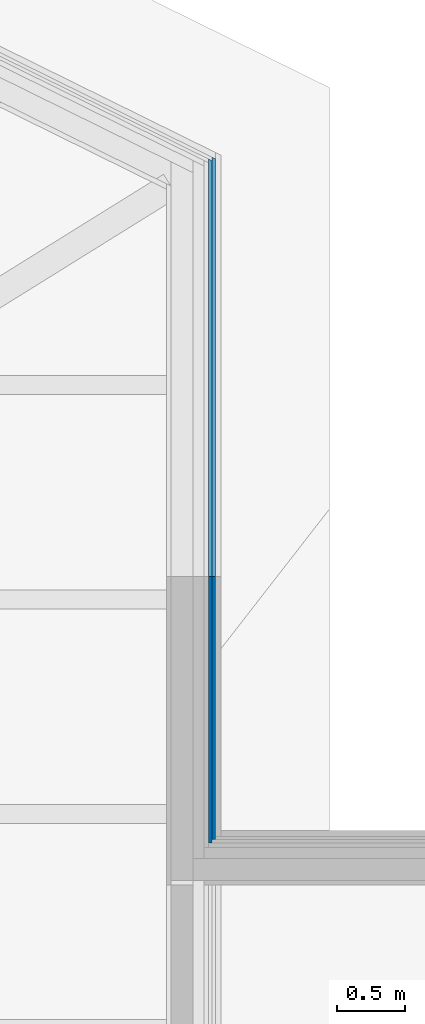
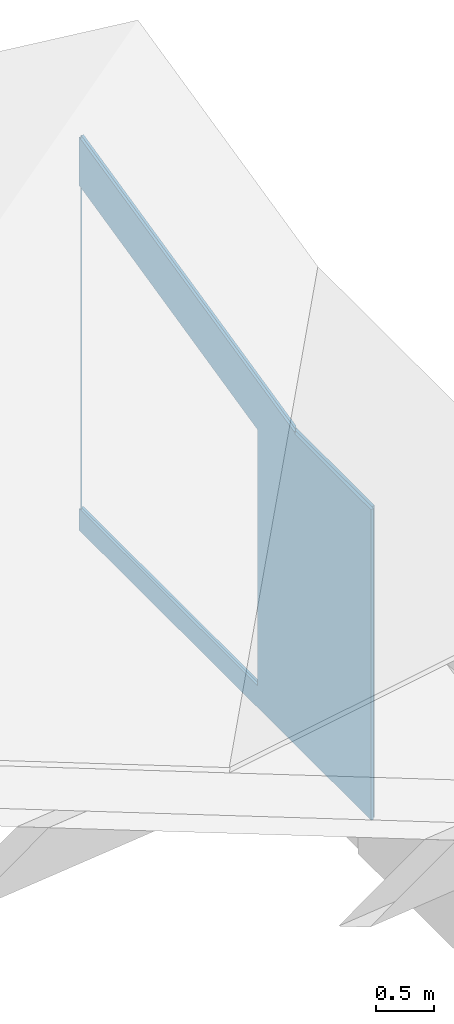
# One storey, part 7 of 14: 2 walls, 4 openings.
"""IFC4 building model written with IfcOpenShell, lengths in metres."""

from ifc_helpers import new_model, entity, si_unit, converted_unit, derived_unit, frame, origin, origin_with_axes, place, context, subcontext, project, spatial, polyline, outline, extrude, clip, bounded_halfspace, faceted_brep, material, element, save


model = new_model("IFC4")

# Units and contexts
model_context = context("Model", 3, precision=1e-05, world=origin())
body_context = subcontext(model_context, "Body", "Model", "MODEL_VIEW")
ifc_project = project(units=[si_unit("LENGTHUNIT", "METRE"), si_unit("AREAUNIT", "SQUARE_METRE"), si_unit("VOLUMEUNIT", "CUBIC_METRE"), si_unit("MASSUNIT", "GRAM", prefix="KILO"), converted_unit("PLANEANGLEUNIT", "DEGREE", entity("IfcPlaneAngleMeasure", 0.0174532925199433), si_unit("PLANEANGLEUNIT", "RADIAN"), dimensions=[0, 0, 0, 0, 0, 0, 0]), derived_unit("THERMALTRANSMITTANCEUNIT", [(si_unit("POWERUNIT", "WATT"), 1), (si_unit("THERMODYNAMICTEMPERATUREUNIT", "KELVIN"), -1), (si_unit("LENGTHUNIT", "METRE"), -2)]), derived_unit("VOLUMETRICFLOWRATEUNIT", [(si_unit("LENGTHUNIT", "METRE"), 3), (converted_unit("TIMEUNIT", "hour", entity("IfcTimeMeasure", 3600.0), si_unit("TIMEUNIT", "SECOND"), dimensions=[0, 0, 1, 0, 0, 0, 0]), -1), (si_unit("LENGTHUNIT", "METRE"), -1)])], contexts=[model_context])

# Site, building, storey
site_placement = place(None, origin())
site = spatial("IfcSite", under=ifc_project, at=site_placement, Name="Psychiatrie Neubau Wunstorf", CompositionType="ELEMENT")
building_placement = place(site_placement, origin())
building = spatial("IfcBuilding", under=site, at=building_placement, Name="Neubau H1 Sozialzentrum", CompositionType="ELEMENT")
storey_placement = place(building_placement, frame((0.0, 0.0, 4.45)))
storey = spatial("IfcBuildingStorey", under=building, at=storey_placement, Name="H1 Ebene +1", CompositionType="ELEMENT", Elevation=4.45)

# Wall, openings
ifc_material_1 = material(Name="WA-KL")
wall_1_placement = place(storey_placement, frame((-4.85452529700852, 33.4392387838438, -0.100000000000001), z_axis=(0.0, 0.0, 1.0), x_axis=(0.0, -1.0, 0.0)))
wall_1 = element("IfcWall", 1, at=wall_1_placement, inside=storey, material=ifc_material_1, context=body_context, shape_type="Clipping", body=[
    clip(clip(extrude(outline(polyline([(-5.03299421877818, 0.0), (0.0, 0.0), (0.0, 0.024), (-5.02116092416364, 0.024), (-5.03299421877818, 0.0)])), frame((5.03299421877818, 0.0, 0.0), z_axis=(0.0, 0.0, 1.0), x_axis=(1.0, 0.0, 0.0)), (0.0, 0.0, 1.0), 4.13722066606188), bounded_halfspace(frame((1.86181390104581, 0.012, 3.7104234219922), z_axis=(-0.222900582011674, 0.105340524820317, -0.96913296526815), x_axis=(0.516530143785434, -0.830356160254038, -0.209058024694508)), True, origin_with_axes(), polyline([(0.0118447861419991, 0.024), (0.0267741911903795, 0.0), (3.71976291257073, 0.0), (3.68887371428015, 0.024), (0.0118447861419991, 0.024)]))), bounded_halfspace(frame((4.36865626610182, 0.012, 3.26927827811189), z_axis=(-8.56596828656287e-15, 0.375157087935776, -0.926961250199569), x_axis=(-1.0, 0.0, 9.47305377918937e-15)), True, origin_with_axes(), polyline([(5.03299421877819, 0.024), (3.68887371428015, 0.024), (3.71976291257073, 0.0), (5.03299421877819, 0.0), (5.03299421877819, 0.024)]))),
])
opening_1_placement = place(wall_1_placement, frame((0.0, 0.0, 0.230000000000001)))
element("IfcOpeningElement", 2, at=opening_1_placement, cuts=wall_1, Name="Fensteröffnung", ObjectType="Opening", context=body_context, shape_type="Brep", body=[
    faceted_brep([(3.07078892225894, 0.0, 0.0), (0.0267741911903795, 0.0, 0.0), (0.0267741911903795, 0.0, 3.39296276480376), (3.07078892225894, 0.0, 2.69283937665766), (0.0118447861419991, 0.024, 0.0), (0.0118447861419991, 0.024, 3.3990052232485), (3.07078892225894, 0.024, 0.0), (3.07078892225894, 0.024, 2.69544807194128), (0.0267586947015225, 0.0, 3.39296269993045), (0.0267586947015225, 0.0, 0.0), (0.0, 0.0, 0.0), (0.0, 0.0, 3.39285067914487), (0.0118332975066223, 0.024000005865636, 0.0), (0.0118332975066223, 0.024000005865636, 3.39900517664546)], [[[0, 1, 2, 3]], [[1, 4, 5, 2]], [[4, 6, 7, 5]], [[6, 0, 3, 7]], [[7, 3, 2, 5]], [[0, 6, 4, 1]], [[8, 9, 10, 11]], [[11, 10, 12, 13]], [[13, 12, 9, 8]], [[12, 10, 9]], [[8, 11, 13]]], orient=[[False], [False], [False], [False], [False], [False], [False], [False], [False], [False], [False]]),
])
opening_2_placement = place(wall_1_placement, frame((0.0, 0.0, 0.230000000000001)))
element("IfcOpeningElement", 3, at=opening_2_placement, cuts=wall_1, Name="Fensteröffnung", ObjectType="Opening", context=body_context, shape_type="Brep", body=[
    faceted_brep([(3.07078892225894, 0.0, 0.0), (0.0267741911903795, 0.0, 0.0), (0.0267741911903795, 0.0, 3.39296276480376), (3.07078892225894, 0.0, 2.69283937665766), (0.0118447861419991, 0.024, 0.0), (0.0118447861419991, 0.024, 3.3990052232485), (3.07078892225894, 0.024, 0.0), (3.07078892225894, 0.024, 2.69544807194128), (0.0267586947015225, 0.0, 3.39296269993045), (0.0267586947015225, 0.0, 0.0), (0.0, 0.0, 0.0), (0.0, 0.0, 3.39285067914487), (0.0118332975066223, 0.024000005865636, 0.0), (0.0118332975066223, 0.024000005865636, 3.39900517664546)], [[[0, 1, 2, 3]], [[1, 4, 5, 2]], [[4, 6, 7, 5]], [[6, 0, 3, 7]], [[7, 3, 2, 5]], [[0, 6, 4, 1]], [[8, 9, 10, 11]], [[11, 10, 12, 13]], [[13, 12, 9, 8]], [[12, 10, 9]], [[8, 11, 13]]], orient=[[False], [False], [False], [False], [False], [False], [False], [False], [False], [False], [False]]),
])

ifc_material_2 = material(Name="WA-TL")
wall_2_placement = place(storey_placement, frame((-4.83052529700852, 33.4541641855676, -0.1), z_axis=(0.0, 0.0, 1.0), x_axis=(0.0, -1.0, 0.0)))
wall_2 = element("IfcWall", 4, at=wall_2_placement, inside=storey, material=ifc_material_2, context=body_context, shape_type="Clipping", body=[
    clip(clip(clip(extrude(outline(polyline([(-5.02391962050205, 0.0), (0.0, 0.0), (0.0, 0.0240000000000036), (-5.01208632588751, 0.0240000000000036), (-5.02391962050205, 0.0)])), frame((5.02391962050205, 0.0, 0.0), z_axis=(0.0, 0.0, 1.0), x_axis=(1.0, 0.0, 0.0)), (0.0, 0.0, 1.0), 4.14326312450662), bounded_halfspace(frame((1.8538300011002, 0.0120000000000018, 3.71830125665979), z_axis=(-0.222900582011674, 0.105340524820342, -0.969132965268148), x_axis=(0.516530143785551, -0.830356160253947, -0.20905802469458)), True, origin_with_axes(), polyline([(0.011840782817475, 0.0240000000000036), (0.0267701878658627, 0.0), (3.70379911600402, 0.0), (3.67290991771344, 0.0240000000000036), (0.011840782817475, 0.0240000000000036)]))), bounded_halfspace(frame((4.35613706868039, 0.0120000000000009, 3.27899148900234), z_axis=(-8.14608734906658e-15, 0.375157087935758, -0.926961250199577), x_axis=(-1.0, -6.73196276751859e-16, 8.75155159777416e-15)), True, origin_with_axes(), polyline([(5.02391962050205, 0.0240000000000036), (3.67290991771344, 0.0240000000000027), (3.70379911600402, 0.0), (5.02391962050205, 0.0), (5.02391962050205, 0.0240000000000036)]))), bounded_halfspace(frame((0.0128703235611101, 0.00800000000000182, 4.13919695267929), z_axis=(0.00411243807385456, 0.246552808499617, -0.9691206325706), x_axis=(0.999990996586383, 0.0, 0.00424343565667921)), True, origin_with_axes(), polyline([(0.0, 0.0), (0.0267701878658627, 0.0), (0.011840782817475, 0.0240000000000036), (0.0, 0.0)]))),
])
opening_3_placement = place(wall_2_placement, frame((0.0, 0.0, 0.23)))
element("IfcOpeningElement", 5, at=opening_3_placement, cuts=wall_2, Name="Fensteröffnung", ObjectType="Opening", context=body_context, shape_type="Brep", body=[
    faceted_brep([(0.0267644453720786, 0.0, 3.39900519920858), (0.0267644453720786, 0.0, 0.0), (0.0, 0.0, 0.0), (0.0, 0.0, 3.39889315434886), (0.0118370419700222, 0.0240000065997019, 0.0), (0.0118370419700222, 0.0240000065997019, 3.40504766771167), (3.08571432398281, 0.0, 0.0), (3.08571432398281, 0.0, 2.69544807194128), (3.08571432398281, 0.0240000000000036, 0.0), (3.08571432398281, 0.0240000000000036, 2.69805676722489)], [[[0, 1, 2, 3]], [[4, 2, 1]], [[0, 3, 5]], [[3, 2, 4, 5]], [[6, 1, 0, 7]], [[4, 8, 9, 5]], [[8, 6, 7, 9]], [[9, 7, 0, 5]], [[6, 8, 4, 1]], [[5, 4, 1, 0]], [[1, 4, 5, 0]]], orient=[[False], [False], [False], [False], [False], [False], [False], [False], [False], [False], [False]]),
])
opening_4_placement = place(wall_2_placement, frame((0.0, 0.0, 0.23)))
element("IfcOpeningElement", 6, at=opening_4_placement, cuts=wall_2, Name="Fensteröffnung", ObjectType="Opening", context=body_context, shape_type="Brep", body=[
    faceted_brep([(0.0267644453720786, 0.0, 3.39900519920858), (0.0267644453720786, 0.0, 0.0), (0.0, 0.0, 0.0), (0.0, 0.0, 3.39889315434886), (0.0118370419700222, 0.0240000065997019, 0.0), (0.0118370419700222, 0.0240000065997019, 3.40504766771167), (3.08571432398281, 0.0, 0.0), (3.08571432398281, 0.0, 2.69544807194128), (3.08571432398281, 0.0240000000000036, 0.0), (3.08571432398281, 0.0240000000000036, 2.69805676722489)], [[[0, 1, 2, 3]], [[4, 2, 1]], [[0, 3, 5]], [[3, 2, 4, 5]], [[6, 1, 0, 7]], [[4, 8, 9, 5]], [[8, 6, 7, 9]], [[9, 7, 0, 5]], [[6, 8, 4, 1]], [[5, 4, 1, 0]], [[1, 4, 5, 0]]], orient=[[False], [False], [False], [False], [False], [False], [False], [False], [False], [False], [False]]),
])

save(model, "model.ifc")
